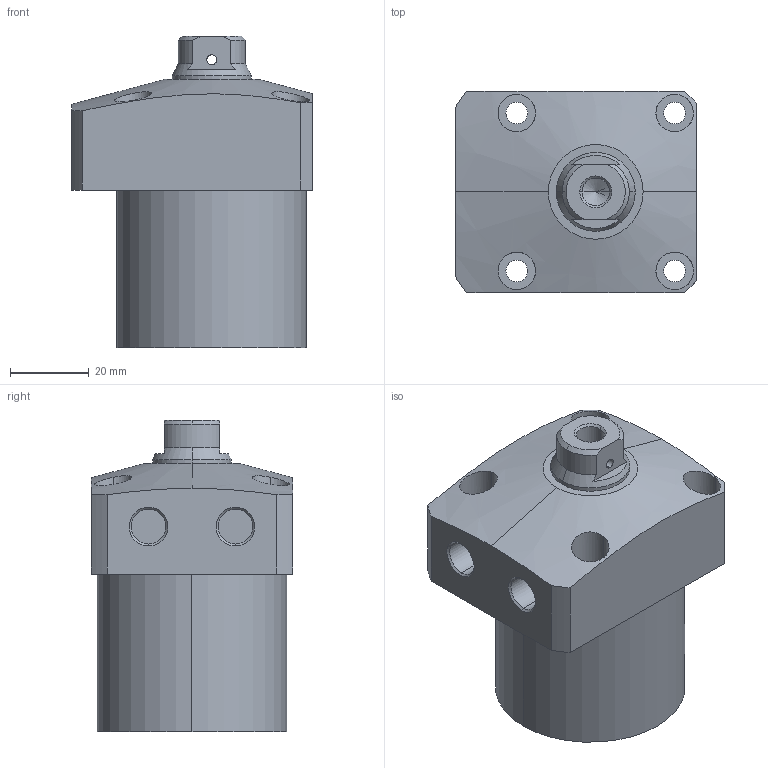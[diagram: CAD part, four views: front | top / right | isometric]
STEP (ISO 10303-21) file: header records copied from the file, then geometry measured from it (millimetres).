
FILE_DESCRIPTION (( 'STEP AP203' ), '1' );
FILE_NAME ('CLL-0480-CB-30.STEP', '2017-05-09T03:08:24', ( '' ), ( '' ), 'SwSTEP 2.0', 'SolidWorks 2015', '' );
FILE_SCHEMA (( 'CONFIG_CONTROL_DESIGN' ));
Length unit declared in the file: millimetre
Products named in the file (1): CLL-0480-CB-30
Bounding box: 61 x 51 x 79 mm (x, y, z)
Volume: 146952.1 mm3; surface area: 20633.7 mm2
Topology: 1 solids, 1 shells, 76 faces, 181 edges, 116 vertices
Faces by surface type: cylinder 39, plane 22, cone 15
Entity records: 2695 total; most frequent: CARTESIAN_POINT 818, DIRECTION 386, ORIENTED_EDGE 358, EDGE_CURVE 179, AXIS2_PLACEMENT_3D 158, VERTEX_POINT 116, EDGE_LOOP 99, CIRCLE 81
